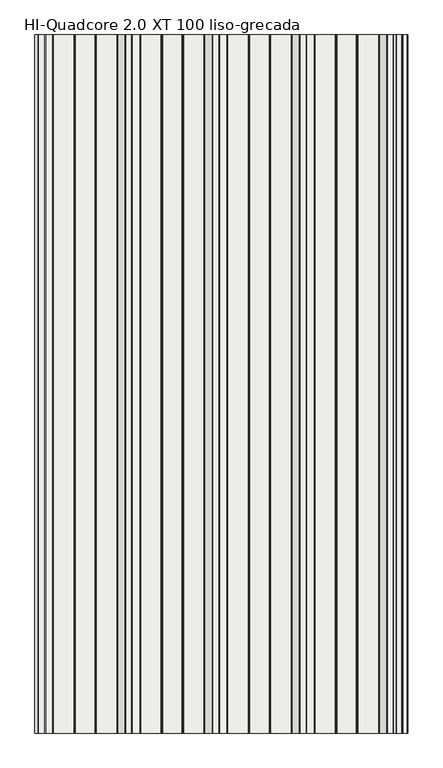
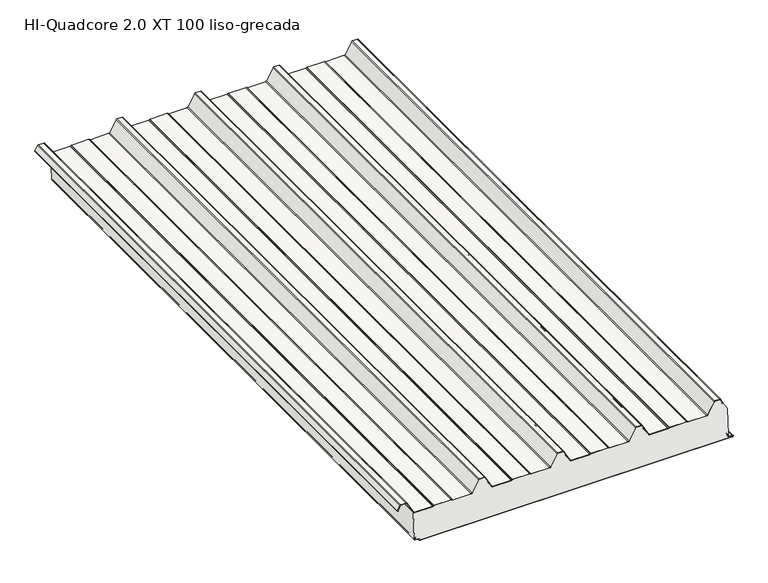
"""IFC4 building model written with IfcOpenShell, lengths in millimetres: slab geometry, HI_QuadCore2.0XT-XT DUAL : HI-Quadcore 2.0 XT 100 liso-grecada."""

from ifc_helpers import new_model, si_unit, point, frame, frame_2d, origin, place, context, project, spatial, polyline, circle_curve, trimmed, segment, composite_curve, outline, extrude, source, transform, mapped, element, save
from ifc_brep_helpers import plane_surface, cylinder_surface, revolved_surface, advanced_brep


def hi_quadcore_2_0_xt_100_liso_grecada_3691bdb9(model_context):
    return source(origin(), model_context, "Body", "SolidModel", [
        advanced_brep(
        [(1186.4313891, 0.0, 13.3795578), (1185.8456418, 0.0, 11.9654043), (1185.8456037, 0.0, 8.2995811), (1187.6996787, 0.0, 6.328543), (1198.1077232, 0.0, 5.5663871), (1199.9032632, 0.0, 3.5769209), (1199.9033076, 0.0, 1.9756011), (1201.903363, 0.0, -0.0243435), (2197.9162803, 0.0, 0.003269), (2199.9046779, 0.0, 2.0032908), (2199.904653, 0.0, 2.9012893), (2198.0077486, 0.0, 4.8985749), (2186.1928118, 0.0, 5.7933732), (2184.3438482, 0.0, 7.7876066), (2184.3437386, 0.0, 11.7402379), (2183.757913, 0.0, 13.1544352), (2182.3436602, 0.0, 14.5686095), (2181.7779748, 0.0, 14.0029241), (2183.1922433, 0.0, 12.5887341), (2183.5437386, 0.0, 11.7402157), (2183.5438482, 0.0, 7.7875844), (2186.1323972, 0.0, 4.9956577), (2197.958132, 0.0, 4.1000416), (2199.104653, 0.0, 2.9012672), (2199.1046779, 0.0, 2.0032686), (2197.9136554, 0.0, 0.8032689), (1201.9033408, 0.0, 0.7756565), (1200.7033076, 0.0, 1.9756233), (1200.7032632, 0.0, 3.5769431), (1198.1768616, 0.0, 6.3634663), (1187.7581044, 0.0, 7.1264067), (1186.6457428, 0.0, 8.3231689), (1186.6456418, 0.0, 11.965396), (1186.9970902, 0.0, 12.8138881), (1189.1032183, 0.0, 14.920133), (1188.5375329, 0.0, 15.4858184), (1186.4313891, 2000.0, 13.3795578), (1188.5375329, 2000.0, 15.4858184), (1189.1032183, 2000.0, 14.920133), (1186.9970902, 2000.0, 12.8138881), (1186.6456418, 2000.0, 11.965396), (1186.6456037, 2000.0, 8.2995728), (1187.7581044, 2000.0, 7.1264067), (1198.1768616, 2000.0, 6.3634663), (1200.7032632, 2000.0, 3.5769431), (1200.7033076, 2000.0, 1.9756233), (1201.9033408, 2000.0, 0.7756565), (2197.9136554, 2000.0, 0.8032689), (2199.1046779, 2000.0, 2.0032686), (2199.104653, 2000.0, 2.9012672), (2197.958132, 2000.0, 4.1000416), (2186.1323972, 2000.0, 4.9956577), (2183.5438482, 2000.0, 7.7875844), (2183.5437386, 2000.0, 11.7402157), (2183.1922433, 2000.0, 12.5887341), (2181.7779748, 2000.0, 14.0029241), (2182.3436602, 2000.0, 14.5686095), (2183.757913, 2000.0, 13.1544352), (2184.3437386, 2000.0, 11.7402379), (2184.3438482, 2000.0, 7.7876066), (2186.1928118, 2000.0, 5.7933732), (2198.0077486, 2000.0, 4.8985749), (2199.904653, 2000.0, 2.9012893), (2199.9046779, 2000.0, 2.0032908), (2197.9162803, 2000.0, 0.003269), (1201.903363, 2000.0, -0.0243435), (1199.9033076, 2000.0, 1.9756011), (1199.9032632, 2000.0, 3.5769209), (1198.1077232, 2000.0, 5.5663871), (1187.6996787, 2000.0, 6.328543), (1185.8457428, 2000.0, 8.3231467), (1185.8456418, 2000.0, 11.9654043)],
        [
            (0, 1, circle_curve(frame((1187.8456418, 0.0, 11.9653834), z_axis=(0.0, -1.0, 0.0), x_axis=(1.0, 0.0, 0.0)), 2.0)),
            (1, 2),
            (2, 3, circle_curve(frame((1187.8457428, 0.0, 8.3232022), z_axis=(0.0, -1.0, 0.0), x_axis=(1.0, 0.0, 0.0)), 2.0)),
            (3, 4),
            (4, 5, circle_curve(frame((1197.9032632, 0.0, 3.5768655), z_axis=(0.0, 1.0, 0.0), x_axis=(1.0, 0.0, 0.0)), 2.0)),
            (5, 6),
            (6, 7, circle_curve(frame((1201.9033076, 0.0, 1.9756565), z_axis=(0.0, -1.0, 0.0), x_axis=(1.0, 0.0, 0.0)), 2.0)),
            (7, 8),
            (8, 9, circle_curve(frame((2197.9046779, 0.0, 2.0032353), z_axis=(0.0, -1.0, 0.0), x_axis=(1.0, 0.0, 0.0)), 2.0)),
            (9, 10),
            (10, 11, circle_curve(frame((2197.904653, 0.0, 2.9012339), z_axis=(0.0, -1.0, 0.0), x_axis=(1.0, 0.0, 0.0)), 2.0)),
            (11, 12),
            (12, 13, circle_curve(frame((2186.3438482, 0.0, 7.7876621), z_axis=(0.0, 1.0, 0.0), x_axis=(1.0, 0.0, 0.0)), 2.0)),
            (13, 14),
            (14, 15, circle_curve(frame((2182.3437386, 0.0, 11.7401824), z_axis=(0.0, -1.0, 0.0), x_axis=(1.0, 0.0, 0.0)), 2.0)),
            (15, 16),
            (16, 17),
            (17, 18),
            (18, 19, circle_curve(frame((2182.3437386, 0.0, 11.7401824), z_axis=(0.0, 1.0, 0.0), x_axis=(1.0, 0.0, 0.0)), 1.2)),
            (19, 20),
            (20, 21, circle_curve(frame((2186.3438482, 0.0, 7.7876621), z_axis=(0.0, -1.0, 0.0), x_axis=(1.0, 0.0, 0.0)), 2.8)),
            (21, 22),
            (22, 23, circle_curve(frame((2197.904653, 0.0, 2.9012339), z_axis=(0.0, 1.0, 0.0), x_axis=(1.0, 0.0, 0.0)), 1.2)),
            (23, 24),
            (24, 25, circle_curve(frame((2197.9046779, 0.0, 2.0032353), z_axis=(0.0, 1.0, 0.0), x_axis=(1.0, 0.0, 0.0)), 1.2)),
            (25, 26),
            (26, 27, circle_curve(frame((1201.9033076, 0.0, 1.9756565), z_axis=(0.0, 1.0, 0.0), x_axis=(1.0, 0.0, 0.0)), 1.2)),
            (27, 28),
            (28, 29, circle_curve(frame((1197.9032632, 0.0, 3.5768655), z_axis=(0.0, -1.0, 0.0), x_axis=(1.0, 0.0, 0.0)), 2.8)),
            (29, 30),
            (30, 31, circle_curve(frame((1187.8457428, 0.0, 8.3232022), z_axis=(0.0, 1.0, 0.0), x_axis=(1.0, 0.0, 0.0)), 1.2)),
            (31, 32),
            (32, 33, circle_curve(frame((1187.8456418, 0.0, 11.9653834), z_axis=(0.0, 1.0, 0.0), x_axis=(1.0, 0.0, 0.0)), 1.2)),
            (33, 34),
            (34, 35),
            (35, 0),
            (36, 37),
            (37, 38),
            (38, 39),
            (39, 40, circle_curve(frame((1187.8456418, 2000.0, 11.9653834), z_axis=(0.0, -1.0, 0.0), x_axis=(1.0, 0.0, 0.0)), 1.2)),
            (40, 41),
            (41, 42, circle_curve(frame((1187.8457428, 2000.0, 8.3232022), z_axis=(0.0, -1.0, 0.0), x_axis=(1.0, 0.0, 0.0)), 1.2)),
            (42, 43),
            (43, 44, circle_curve(frame((1197.9032632, 2000.0, 3.5768655), z_axis=(0.0, 1.0, 0.0), x_axis=(1.0, 0.0, 0.0)), 2.8)),
            (44, 45),
            (45, 46, circle_curve(frame((1201.9033076, 2000.0, 1.9756565), z_axis=(0.0, -1.0, 0.0), x_axis=(1.0, 0.0, 0.0)), 1.2)),
            (46, 47),
            (47, 48, circle_curve(frame((2197.9046779, 2000.0, 2.0032353), z_axis=(0.0, -1.0, 0.0), x_axis=(1.0, 0.0, 0.0)), 1.2)),
            (48, 49),
            (49, 50, circle_curve(frame((2197.904653, 2000.0, 2.9012339), z_axis=(0.0, -1.0, 0.0), x_axis=(1.0, 0.0, 0.0)), 1.2)),
            (50, 51),
            (51, 52, circle_curve(frame((2186.3438482, 2000.0, 7.7876621), z_axis=(0.0, 1.0, 0.0), x_axis=(1.0, 0.0, 0.0)), 2.8)),
            (52, 53),
            (53, 54, circle_curve(frame((2182.3437386, 2000.0, 11.7401824), z_axis=(0.0, -1.0, 0.0), x_axis=(1.0, 0.0, 0.0)), 1.2)),
            (54, 55),
            (55, 56),
            (56, 57),
            (57, 58, circle_curve(frame((2182.3437386, 2000.0, 11.7401824), z_axis=(0.0, 1.0, 0.0), x_axis=(1.0, 0.0, 0.0)), 2.0)),
            (58, 59),
            (59, 60, circle_curve(frame((2186.3438482, 2000.0, 7.7876621), z_axis=(0.0, -1.0, 0.0), x_axis=(1.0, 0.0, 0.0)), 2.0)),
            (60, 61),
            (61, 62, circle_curve(frame((2197.904653, 2000.0, 2.9012339), z_axis=(0.0, 1.0, 0.0), x_axis=(1.0, 0.0, 0.0)), 2.0)),
            (62, 63),
            (63, 64, circle_curve(frame((2197.9046779, 2000.0, 2.0032353), z_axis=(0.0, 1.0, 0.0), x_axis=(1.0, 0.0, 0.0)), 2.0)),
            (64, 65),
            (65, 66, circle_curve(frame((1201.9033076, 2000.0, 1.9756565), z_axis=(0.0, 1.0, 0.0), x_axis=(1.0, 0.0, 0.0)), 2.0)),
            (66, 67),
            (67, 68, circle_curve(frame((1197.9032632, 2000.0, 3.5768655), z_axis=(0.0, -1.0, 0.0), x_axis=(1.0, 0.0, 0.0)), 2.0)),
            (68, 69),
            (69, 70, circle_curve(frame((1187.8457428, 2000.0, 8.3232022), z_axis=(0.0, 1.0, 0.0), x_axis=(1.0, 0.0, 0.0)), 2.0)),
            (70, 71),
            (71, 36, circle_curve(frame((1187.8456418, 2000.0, 11.9653834), z_axis=(0.0, 1.0, 0.0), x_axis=(1.0, 0.0, 0.0)), 2.0)),
            (0, 36),
            (71, 1),
            (70, 2),
            (69, 3),
            (68, 4),
            (67, 5),
            (66, 6),
            (65, 7),
            (64, 8),
            (63, 9),
            (62, 10),
            (61, 11),
            (60, 12),
            (59, 13),
            (58, 14),
            (57, 15),
            (56, 16),
            (55, 17),
            (54, 18),
            (53, 19),
            (52, 20),
            (51, 21),
            (50, 22),
            (49, 23),
            (48, 24),
            (47, 25),
            (46, 26),
            (45, 27),
            (44, 28),
            (43, 29),
            (42, 30),
            (41, 31),
            (40, 32),
            (39, 33),
            (38, 34),
            (37, 35),
        ],
        [
            plane_surface(frame((1189.8456418, 0.0, 11.9653834), z_axis=(0.0, -1.0, 0.0), x_axis=(0.0, 0.0, 1.0))),
            plane_surface(frame((1189.8456418, 2000.0, 11.9653834), z_axis=(0.0, 1.0, 0.0), x_axis=(0.0, 0.0, -1.0))),
            cylinder_surface(frame((1187.8456418, 2000.0, 11.9653834), z_axis=(0.0, -1.0, 0.0), x_axis=(1.0, 0.0, 0.0)), 2.0),
            plane_surface(frame((1185.8456418, 0.0, 11.9654043), z_axis=(-0.9999999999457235, 0.0, 1.041887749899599e-05), x_axis=(0.0, 1.0, 0.0))),
            cylinder_surface(frame((1187.8457428, 2000.0, 8.3232022), z_axis=(0.0, -1.0, 0.0), x_axis=(1.0, 0.0, 0.0)), 2.0),
            plane_surface(frame((1187.6996787, 0.0, 6.328543), z_axis=(-0.07303203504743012, 0.0, -0.9973295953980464), x_axis=(0.0, 1.0, 0.0))),
            revolved_surface(polyline([(1199.9032632, 2000.0, 3.5768655), (1199.9032632, 0.0, 3.5768655)]), (1197.9032632, 2000.0, 3.5768655), (0.0, 1.0, 0.0)),
            plane_surface(frame((1199.9032632, 0.0, 3.5769209), z_axis=(-0.9999999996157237, 0.0, -2.7722781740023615e-05), x_axis=(0.0, 1.0, 0.0))),
            cylinder_surface(frame((1201.9033076, 2000.0, 1.9756565), z_axis=(0.0, -1.0, 0.0), x_axis=(1.0, 0.0, 0.0)), 2.0),
            plane_surface(frame((1201.903363, 0.0, -0.0243435), z_axis=(2.772298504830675e-05, 0.0, -0.9999999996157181), x_axis=(0.0, 1.0, 0.0))),
            cylinder_surface(frame((2197.9046779, 2000.0, 2.0032353), z_axis=(0.0, -1.0, 0.0), x_axis=(1.0, 0.0, 0.0)), 2.0),
            plane_surface(frame((2199.9046779, 0.0, 2.0032908), z_axis=(0.9999999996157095, 0.0, 2.7723295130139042e-05), x_axis=(0.0, 1.0, 0.0))),
            cylinder_surface(frame((2197.904653, 2000.0, 2.9012339), z_axis=(0.0, -1.0, 0.0), x_axis=(1.0, 0.0, 0.0)), 2.0),
            plane_surface(frame((2198.0077486, 0.0, 4.8985749), z_axis=(0.07551822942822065, 0.0, 0.9971444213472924), x_axis=(0.0, 1.0, 0.0))),
            revolved_surface(polyline([(2188.3438482, 2000.0, 7.7876621), (2188.3438482, 0.0, 7.7876621)]), (2186.3438482, 2000.0, 7.7876621), (0.0, 1.0, 0.0)),
            plane_surface(frame((2184.3438482, 0.0, 7.7876066), z_axis=(0.9999999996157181, 0.0, 2.7722984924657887e-05), x_axis=(0.0, 1.0, 0.0))),
            cylinder_surface(frame((2182.3437386, 2000.0, 11.7401824), z_axis=(0.0, -1.0, 0.0), x_axis=(1.0, 0.0, 0.0)), 2.0),
            plane_surface(frame((2183.757913, 0.0, 13.1544352), z_axis=(0.7070871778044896, 0.0, 0.7071263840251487), x_axis=(0.0, 1.0, 0.0))),
            plane_surface(frame((2182.3436602, 0.0, 14.5686095), z_axis=(-0.7071067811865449, 0.0, 0.7071067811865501), x_axis=(0.0, 1.0, 0.0))),
            plane_surface(frame((2181.7779748, 0.0, 14.0029241), z_axis=(-0.7070871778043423, 0.0, -0.707126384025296), x_axis=(0.0, 1.0, 0.0))),
            revolved_surface(polyline([(2183.5437386, 2000.0, 11.7401824), (2183.5437386, 0.0, 11.7401824)]), (2182.3437386, 2000.0, 11.7401824), (0.0, 1.0, 0.0)),
            plane_surface(frame((2183.5437386, 0.0, 11.7402157), z_axis=(-0.9999999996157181, 0.0, -2.7722985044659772e-05), x_axis=(0.0, 1.0, 0.0))),
            cylinder_surface(frame((2186.3438482, 2000.0, 7.7876621), z_axis=(0.0, -1.0, 0.0), x_axis=(1.0, 0.0, 0.0)), 2.8),
            plane_surface(frame((2186.1323972, 0.0, 4.9956577), z_axis=(-0.07551822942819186, 0.0, -0.9971444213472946), x_axis=(0.0, 1.0, 0.0))),
            revolved_surface(polyline([(2199.104653, 2000.0, 2.9012339), (2199.104653, 0.0, 2.9012339)]), (2197.904653, 2000.0, 2.9012339), (0.0, 1.0, 0.0)),
            plane_surface(frame((2199.104653, 0.0, 2.9012672), z_axis=(-0.9999999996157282, 0.0, -2.7722622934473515e-05), x_axis=(0.0, 1.0, 0.0))),
            revolved_surface(polyline([(2199.1046779, 2000.0, 2.0032353), (2199.1046779, 0.0, 2.0032353)]), (2197.9046779, 2000.0, 2.0032353), (0.0, 1.0, 0.0)),
            plane_surface(frame((2197.9136554, 0.0, 0.8032689), z_axis=(-2.7722985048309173e-05, 0.0, 0.9999999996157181), x_axis=(0.0, 1.0, 0.0))),
            revolved_surface(polyline([(1203.1033076, 2000.0, 1.9756565), (1203.1033076, 0.0, 1.9756565)]), (1201.9033076, 2000.0, 1.9756565), (0.0, 1.0, 0.0)),
            plane_surface(frame((1200.7033076, 0.0, 1.9756233), z_axis=(0.9999999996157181, 0.0, 2.7722983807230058e-05), x_axis=(0.0, 1.0, 0.0))),
            cylinder_surface(frame((1197.9032632, 2000.0, 3.5768655), z_axis=(0.0, -1.0, 0.0), x_axis=(1.0, 0.0, 0.0)), 2.8),
            plane_surface(frame((1198.1768616, 0.0, 6.3634663), z_axis=(0.0730320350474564, 0.0, 0.9973295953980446), x_axis=(0.0, 1.0, 0.0))),
            revolved_surface(polyline([(1189.0457428, 2000.0, 8.3232022), (1189.0457428, 0.0, 8.3232022)]), (1187.8457428, 2000.0, 8.3232022), (0.0, 1.0, 0.0)),
            plane_surface(frame((1186.6456037, 0.0, 8.2995728), z_axis=(0.9999999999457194, 0.0, -1.0419274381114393e-05), x_axis=(0.0, 1.0, 0.0))),
            revolved_surface(polyline([(1189.0456418, 2000.0, 11.9653834), (1189.0456418, 0.0, 11.9653834)]), (1187.8456418, 2000.0, 11.9653834), (0.0, 1.0, 0.0)),
            plane_surface(frame((1186.9970902, 0.0, 12.8138881), z_axis=(0.7071263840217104, 0.0, -0.7070871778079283), x_axis=(0.0, 1.0, 0.0))),
            plane_surface(frame((1189.1032183, 0.0, 14.920133), z_axis=(0.7071067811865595, 0.0, 0.7071067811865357), x_axis=(0.0, 1.0, 0.0))),
            plane_surface(frame((1188.5375329, 0.0, 15.4858184), z_axis=(-0.7071263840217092, 0.0, 0.7070871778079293), x_axis=(0.0, 1.0, 0.0))),
        ],
        [
            (0, [[1, 2, 3, 4, 5, 6, 7, 8, 9, 10, 11, 12, 13, 14, 15, 16, 17, 18, 19, 20, 21, 22, 23, 24, 25, 26, 27, 28, 29, 30, 31, 32, 33, 34, 35, 36]]),
            (1, [[37, 38, 39, 40, 41, 42, 43, 44, 45, 46, 47, 48, 49, 50, 51, 52, 53, 54, 55, 56, 57, 58, 59, 60, 61, 62, 63, 64, 65, 66, 67, 68, 69, 70, 71, 72]]),
            (2, [[-1, 73, -72, 74]]),
            (3, [[-2, -74, -71, 75]]),
            (4, [[-3, -75, -70, 76]]),
            (5, [[-4, -76, -69, 77]]),
            (6, [[-5, -77, -68, 78]]),
            (7, [[-6, -78, -67, 79]]),
            (8, [[-7, -79, -66, 80]]),
            (9, [[-8, -80, -65, 81]]),
            (10, [[-9, -81, -64, 82]]),
            (11, [[-10, -82, -63, 83]]),
            (12, [[-11, -83, -62, 84]]),
            (13, [[-12, -84, -61, 85]]),
            (14, [[-13, -85, -60, 86]]),
            (15, [[-14, -86, -59, 87]]),
            (16, [[-15, -87, -58, 88]]),
            (17, [[-16, -88, -57, 89]]),
            (18, [[-17, -89, -56, 90]]),
            (19, [[-18, -90, -55, 91]]),
            (20, [[-19, -91, -54, 92]]),
            (21, [[-20, -92, -53, 93]]),
            (22, [[-21, -93, -52, 94]]),
            (23, [[-22, -94, -51, 95]]),
            (24, [[-23, -95, -50, 96]]),
            (25, [[-24, -96, -49, 97]]),
            (26, [[-25, -97, -48, 98]]),
            (27, [[-26, -98, -47, 99]]),
            (28, [[-27, -99, -46, 100]]),
            (29, [[-28, -100, -45, 101]]),
            (30, [[-29, -101, -44, 102]]),
            (31, [[-30, -102, -43, 103]]),
            (32, [[-31, -103, -42, 104]]),
            (33, [[-32, -104, -41, 105]]),
            (34, [[-33, -105, -40, 106]]),
            (35, [[-34, -106, -39, 107]]),
            (36, [[-35, -107, -38, 108]]),
            (37, [[-36, -108, -37, -73]]),
        ],
    ),
        extrude(outline(composite_curve([segment(polyline([(138.1649405, 1138.5141429), (123.6579587, 1130.3539656)]), True, "CONTINUOUS"), segment(trimmed(circle_curve(frame_2d((123.0451321, 1131.443435)), 1.25), [point((123.6579587, 1130.3539656))], [point((122.689225, 1132.6416963))], False, "CARTESIAN"), True, "CONTINUOUS"), segment(polyline([(122.689225, 1132.6416963), (125.7359115, 1133.437141), (125.9380053, 1132.663088), (122.9074492, 1131.8718547)]), True, "CONTINUOUS"), segment(trimmed(circle_curve(frame_2d((123.0451321, 1131.443435)), 0.45), [point((122.9074492, 1131.8718547))], [point((123.2657497, 1131.051226))], True, "CARTESIAN"), True, "CONTINUOUS"), segment(polyline([(123.2657497, 1131.051226), (137.7727315, 1139.2114033)]), True, "CONTINUOUS"), segment(trimmed(circle_curve(frame_2d((136.4, 1141.6518148)), 2.8), [point((137.7727315, 1139.2114033))], [point((139.2, 1141.6518148))], True, "CARTESIAN"), True, "CONTINUOUS"), segment(polyline([(139.2, 1141.6518148), (139.2, 1158.9311117)]), True, "CONTINUOUS"), segment(trimmed(circle_curve(frame_2d((136.4, 1158.9311117)), 2.8), [point((139.2, 1158.9311117))], [point((137.5457267, 1161.4859719))], True, "CARTESIAN"), True, "CONTINUOUS"), segment(polyline([(137.5457267, 1161.4859719), (101.2048889, 1181.3052775)]), True, "CONTINUOUS"), segment(trimmed(circle_curve(frame_2d((103.0, 1184.6545425)), 3.8), [point((101.2048889, 1181.3052775))], [point((99.2, 1184.6545425))], False, "CARTESIAN"), True, "CONTINUOUS"), segment(polyline([(99.2, 1184.6545425), (99.2, 1242.4489557)]), True, "CONTINUOUS"), segment(trimmed(circle_curve(frame_2d((103.0, 1242.4489557)), 3.8), [point((99.2, 1242.4489557))], [point((99.6973596, 1244.328468))], False, "CARTESIAN"), True, "CONTINUOUS"), segment(polyline([(99.6973596, 1244.328468), (100.912055, 1246.4629056)]), True, "CONTINUOUS"), segment(trimmed(circle_curve(frame_2d((99.0, 1247.5510443)), 2.2), [point((100.912055, 1246.4629056))], [point((101.2, 1247.5510443))], True, "CARTESIAN"), True, "CONTINUOUS"), segment(polyline([(101.2, 1247.5510443), (101.2, 1302.4489557)]), True, "CONTINUOUS"), segment(trimmed(circle_curve(frame_2d((99.0, 1302.4489557)), 2.2), [point((101.2, 1302.4489557))], [point((100.912055, 1303.5370944))], True, "CARTESIAN"), True, "CONTINUOUS"), segment(polyline([(100.912055, 1303.5370944), (99.6973596, 1305.671532)]), True, "CONTINUOUS"), segment(trimmed(circle_curve(frame_2d((103.0, 1307.5510443)), 3.8), [point((99.6973596, 1305.671532))], [point((99.2, 1307.5510443))], False, "CARTESIAN"), True, "CONTINUOUS"), segment(polyline([(99.2, 1307.5510443), (99.2, 1365.7454575)]), True, "CONTINUOUS"), segment(trimmed(circle_curve(frame_2d((103.0, 1365.7454575)), 3.8), [point((99.2, 1365.7454575))], [point((101.1370073, 1369.0574446))], False, "CARTESIAN"), True, "CONTINUOUS"), segment(polyline([(101.1370073, 1369.0574446), (138.0785747, 1389.8370763)]), True, "CONTINUOUS"), segment(trimmed(circle_curve(frame_2d((137.0, 1391.7545425)), 2.2), [point((138.0785747, 1389.8370763))], [point((139.2, 1391.7545425))], True, "CARTESIAN"), True, "CONTINUOUS"), segment(polyline([(139.2, 1391.7545425), (139.2, 1408.2454575)]), True, "CONTINUOUS"), segment(trimmed(circle_curve(frame_2d((137.0, 1408.2454575)), 2.2), [point((139.2, 1408.2454575))], [point((138.0785747, 1410.1629237))], True, "CARTESIAN"), True, "CONTINUOUS"), segment(polyline([(138.0785747, 1410.1629237), (101.1370073, 1430.9425554)]), True, "CONTINUOUS"), segment(trimmed(circle_curve(frame_2d((103.0, 1434.2545425)), 3.8), [point((101.1370073, 1430.9425554))], [point((99.2, 1434.2545425))], False, "CARTESIAN"), True, "CONTINUOUS"), segment(polyline([(99.2, 1434.2545425), (99.2, 1492.4489557)]), True, "CONTINUOUS"), segment(trimmed(circle_curve(frame_2d((103.0, 1492.4489557)), 3.8), [point((99.2, 1492.4489557))], [point((99.6973596, 1494.328468))], False, "CARTESIAN"), True, "CONTINUOUS"), segment(polyline([(99.6973596, 1494.328468), (100.912055, 1496.4629056)]), True, "CONTINUOUS"), segment(trimmed(circle_curve(frame_2d((99.0, 1497.5510443)), 2.2), [point((100.912055, 1496.4629056))], [point((101.2, 1497.5510443))], True, "CARTESIAN"), True, "CONTINUOUS"), segment(polyline([(101.2, 1497.5510443), (101.2, 1552.4489557)]), True, "CONTINUOUS"), segment(trimmed(circle_curve(frame_2d((99.0, 1552.4489557)), 2.2), [point((101.2, 1552.4489557))], [point((100.912055, 1553.5370944))], True, "CARTESIAN"), True, "CONTINUOUS"), segment(polyline([(100.912055, 1553.5370944), (99.6973596, 1555.671532)]), True, "CONTINUOUS"), segment(trimmed(circle_curve(frame_2d((103.0, 1557.5510443)), 3.8), [point((99.6973596, 1555.671532))], [point((99.2, 1557.5510443))], False, "CARTESIAN"), True, "CONTINUOUS"), segment(polyline([(99.2, 1557.5510443), (99.2, 1615.7454575)]), True, "CONTINUOUS"), segment(trimmed(circle_curve(frame_2d((103.0, 1615.7454575)), 3.8), [point((99.2, 1615.7454575))], [point((101.1370073, 1619.0574446))], False, "CARTESIAN"), True, "CONTINUOUS"), segment(polyline([(101.1370073, 1619.0574446), (138.0785747, 1639.8370763)]), True, "CONTINUOUS"), segment(trimmed(circle_curve(frame_2d((137.0, 1641.7545425)), 2.2), [point((138.0785747, 1639.8370763))], [point((139.2, 1641.7545425))], True, "CARTESIAN"), True, "CONTINUOUS"), segment(polyline([(139.2, 1641.7545425), (139.2, 1658.2454575)]), True, "CONTINUOUS"), segment(trimmed(circle_curve(frame_2d((137.0, 1658.2454575)), 2.2), [point((139.2, 1658.2454575))], [point((138.0785747, 1660.1629237))], True, "CARTESIAN"), True, "CONTINUOUS"), segment(polyline([(138.0785747, 1660.1629237), (101.1370073, 1680.9425554)]), True, "CONTINUOUS"), segment(trimmed(circle_curve(frame_2d((103.0, 1684.2545425)), 3.8), [point((101.1370073, 1680.9425554))], [point((99.2, 1684.2545425))], False, "CARTESIAN"), True, "CONTINUOUS"), segment(polyline([(99.2, 1684.2545425), (99.2, 1742.4489557)]), True, "CONTINUOUS"), segment(trimmed(circle_curve(frame_2d((103.0, 1742.4489557)), 3.8), [point((99.2, 1742.4489557))], [point((99.6973596, 1744.328468))], False, "CARTESIAN"), True, "CONTINUOUS"), segment(polyline([(99.6973596, 1744.328468), (100.912055, 1746.4629056)]), True, "CONTINUOUS"), segment(trimmed(circle_curve(frame_2d((99.0, 1747.5510443)), 2.2), [point((100.912055, 1746.4629056))], [point((101.2, 1747.5510443))], True, "CARTESIAN"), True, "CONTINUOUS"), segment(polyline([(101.2, 1747.5510443), (101.2, 1802.4489557)]), True, "CONTINUOUS"), segment(trimmed(circle_curve(frame_2d((99.0, 1802.4489557)), 2.2), [point((101.2, 1802.4489557))], [point((100.912055, 1803.5370944))], True, "CARTESIAN"), True, "CONTINUOUS"), segment(polyline([(100.912055, 1803.5370944), (99.6973596, 1805.671532)]), True, "CONTINUOUS"), segment(trimmed(circle_curve(frame_2d((103.0, 1807.5510443)), 3.8), [point((99.6973596, 1805.671532))], [point((99.2, 1807.5510443))], False, "CARTESIAN"), True, "CONTINUOUS"), segment(polyline([(99.2, 1807.5510443), (99.2, 1865.7454575)]), True, "CONTINUOUS"), segment(trimmed(circle_curve(frame_2d((103.0, 1865.7454575)), 3.8), [point((99.2, 1865.7454575))], [point((101.1370073, 1869.0574446))], False, "CARTESIAN"), True, "CONTINUOUS"), segment(polyline([(101.1370073, 1869.0574446), (138.0785747, 1889.8370763)]), True, "CONTINUOUS"), segment(trimmed(circle_curve(frame_2d((137.0, 1891.7545425)), 2.2), [point((138.0785747, 1889.8370763))], [point((139.2, 1891.7545425))], True, "CARTESIAN"), True, "CONTINUOUS"), segment(polyline([(139.2, 1891.7545425), (139.2, 1908.2454575)]), True, "CONTINUOUS"), segment(trimmed(circle_curve(frame_2d((137.0, 1908.2454575)), 2.2), [point((139.2, 1908.2454575))], [point((138.0785747, 1910.1629237))], True, "CARTESIAN"), True, "CONTINUOUS"), segment(polyline([(138.0785747, 1910.1629237), (101.1370073, 1930.9425554)]), True, "CONTINUOUS"), segment(trimmed(circle_curve(frame_2d((103.0, 1934.2545425)), 3.8), [point((101.1370073, 1930.9425554))], [point((99.2, 1934.2545425))], False, "CARTESIAN"), True, "CONTINUOUS"), segment(polyline([(99.2, 1934.2545425), (99.2, 1992.4489557)]), True, "CONTINUOUS"), segment(trimmed(circle_curve(frame_2d((103.0, 1992.4489557)), 3.8), [point((99.2, 1992.4489557))], [point((99.6973596, 1994.328468))], False, "CARTESIAN"), True, "CONTINUOUS"), segment(polyline([(99.6973596, 1994.328468), (100.912055, 1996.4629056)]), True, "CONTINUOUS"), segment(trimmed(circle_curve(frame_2d((99.0, 1997.5510443)), 2.2), [point((100.912055, 1996.4629056))], [point((101.2, 1997.5510443))], True, "CARTESIAN"), True, "CONTINUOUS"), segment(polyline([(101.2, 1997.5510443), (101.2, 2052.4489557)]), True, "CONTINUOUS"), segment(trimmed(circle_curve(frame_2d((99.0, 2052.4489557)), 2.2), [point((101.2, 2052.4489557))], [point((100.912055, 2053.5370944))], True, "CARTESIAN"), True, "CONTINUOUS"), segment(polyline([(100.912055, 2053.5370944), (99.6973596, 2055.671532)]), True, "CONTINUOUS"), segment(trimmed(circle_curve(frame_2d((103.0, 2057.5510443)), 3.8), [point((99.6973596, 2055.671532))], [point((99.2, 2057.5510443))], False, "CARTESIAN"), True, "CONTINUOUS"), segment(polyline([(99.2, 2057.5510443), (99.2, 2116.4208923)]), True, "CONTINUOUS"), segment(trimmed(circle_curve(frame_2d((103.0, 2116.4208923)), 3.8), [point((99.2, 2116.4208923))], [point((101.1583504, 2119.7447946))], False, "CARTESIAN"), True, "CONTINUOUS"), segment(polyline([(101.1583504, 2119.7447946), (138.0662182, 2140.1940602)]), True, "CONTINUOUS"), segment(trimmed(circle_curve(frame_2d((137.0, 2142.1184247)), 2.2), [point((138.0662182, 2140.1940602))], [point((139.2, 2142.1184247))], True, "CARTESIAN"), True, "CONTINUOUS"), segment(polyline([(139.2, 2142.1184247), (139.2, 2157.4945491)]), True, "CONTINUOUS"), segment(trimmed(circle_curve(frame_2d((137.0, 2157.4945491)), 2.2), [point((139.2, 2157.4945491))], [point((138.0785747, 2159.4120152))], True, "CARTESIAN"), True, "CONTINUOUS"), segment(polyline([(138.0785747, 2159.4120152), (127.5275176, 2165.3469849)]), True, "CONTINUOUS"), segment(trimmed(circle_curve(frame_2d((126.9392041, 2164.3010942)), 1.2), [point((127.5275176, 2165.3469849))], [point((126.3392623, 2165.3403583))], True, "CARTESIAN"), True, "CONTINUOUS"), segment(polyline([(126.3392623, 2165.3403583), (124.7281681, 2164.4103128), (124.3282068, 2165.1031555), (125.939301, 2166.033201)]), True, "CONTINUOUS"), segment(trimmed(circle_curve(frame_2d((126.9392041, 2164.3010942)), 2.0), [point((125.939301, 2166.033201))], [point((127.9197266, 2166.0442453))], False, "CARTESIAN"), True, "CONTINUOUS"), segment(polyline([(127.9197266, 2166.0442453), (138.4707837, 2160.1092757)]), True, "CONTINUOUS"), segment(trimmed(circle_curve(frame_2d((137.0, 2157.4945491)), 3.0), [point((138.4707837, 2160.1092757))], [point((140.0, 2157.4945491))], False, "CARTESIAN"), True, "CONTINUOUS"), segment(polyline([(140.0, 2157.4945491), (140.0, 2142.1184247)]), True, "CONTINUOUS"), segment(trimmed(circle_curve(frame_2d((137.0, 2142.1184247)), 3.0), [point((140.0, 2142.1184247))], [point((138.4539339, 2139.4942913))], False, "CARTESIAN"), True, "CONTINUOUS"), segment(polyline([(138.4539339, 2139.4942913), (101.5460661, 2119.0450257)]), True, "CONTINUOUS"), segment(trimmed(circle_curve(frame_2d((103.0, 2116.4208923)), 3.0), [point((101.5460661, 2119.0450257))], [point((100.0, 2116.4208923))], True, "CARTESIAN"), True, "CONTINUOUS"), segment(polyline([(100.0, 2116.4208923), (100.0, 2057.5510443)]), True, "CONTINUOUS"), segment(trimmed(circle_curve(frame_2d((103.0, 2057.5510443)), 3.0), [point((100.0, 2057.5510443))], [point((100.3926523, 2056.0672188))], True, "CARTESIAN"), True, "CONTINUOUS"), segment(polyline([(100.3926523, 2056.0672188), (101.6073477, 2053.9327812)]), True, "CONTINUOUS"), segment(trimmed(circle_curve(frame_2d((99.0, 2052.4489557)), 3.0), [point((101.6073477, 2053.9327812))], [point((102.0, 2052.4489557))], False, "CARTESIAN"), True, "CONTINUOUS"), segment(polyline([(102.0, 2052.4489557), (102.0, 1997.5510443)]), True, "CONTINUOUS"), segment(trimmed(circle_curve(frame_2d((99.0, 1997.5510443)), 3.0), [point((102.0, 1997.5510443))], [point((101.6073477, 1996.0672188))], False, "CARTESIAN"), True, "CONTINUOUS"), segment(polyline([(101.6073477, 1996.0672188), (100.3926523, 1993.9327812)]), True, "CONTINUOUS"), segment(trimmed(circle_curve(frame_2d((103.0, 1992.4489557)), 3.0), [point((100.3926523, 1993.9327812))], [point((100.0, 1992.4489557))], True, "CARTESIAN"), True, "CONTINUOUS"), segment(polyline([(100.0, 1992.4489557), (100.0, 1934.2545425)]), True, "CONTINUOUS"), segment(trimmed(circle_curve(frame_2d((103.0, 1934.2545425)), 3.0), [point((100.0, 1934.2545425))], [point((101.5292163, 1931.6398158))], True, "CARTESIAN"), True, "CONTINUOUS"), segment(polyline([(101.5292163, 1931.6398158), (138.4707837, 1910.8601842)]), True, "CONTINUOUS"), segment(trimmed(circle_curve(frame_2d((137.0, 1908.2454575)), 3.0), [point((138.4707837, 1910.8601842))], [point((140.0, 1908.2454575))], False, "CARTESIAN"), True, "CONTINUOUS"), segment(polyline([(140.0, 1908.2454575), (140.0, 1891.7545425)]), True, "CONTINUOUS"), segment(trimmed(circle_curve(frame_2d((137.0, 1891.7545425)), 3.0), [point((140.0, 1891.7545425))], [point((138.4707837, 1889.1398158))], False, "CARTESIAN"), True, "CONTINUOUS"), segment(polyline([(138.4707837, 1889.1398158), (101.5292163, 1868.3601842)]), True, "CONTINUOUS"), segment(trimmed(circle_curve(frame_2d((103.0, 1865.7454575)), 3.0), [point((101.5292163, 1868.3601842))], [point((100.0, 1865.7454575))], True, "CARTESIAN"), True, "CONTINUOUS"), segment(polyline([(100.0, 1865.7454575), (100.0, 1807.5510443)]), True, "CONTINUOUS"), segment(trimmed(circle_curve(frame_2d((103.0, 1807.5510443)), 3.0), [point((100.0, 1807.5510443))], [point((100.3926523, 1806.0672188))], True, "CARTESIAN"), True, "CONTINUOUS"), segment(polyline([(100.3926523, 1806.0672188), (101.6073477, 1803.9327812)]), True, "CONTINUOUS"), segment(trimmed(circle_curve(frame_2d((99.0, 1802.4489557)), 3.0), [point((101.6073477, 1803.9327812))], [point((102.0, 1802.4489557))], False, "CARTESIAN"), True, "CONTINUOUS"), segment(polyline([(102.0, 1802.4489557), (102.0, 1747.5510443)]), True, "CONTINUOUS"), segment(trimmed(circle_curve(frame_2d((99.0, 1747.5510443)), 3.0), [point((102.0, 1747.5510443))], [point((101.6073477, 1746.0672188))], False, "CARTESIAN"), True, "CONTINUOUS"), segment(polyline([(101.6073477, 1746.0672188), (100.3926523, 1743.9327812)]), True, "CONTINUOUS"), segment(trimmed(circle_curve(frame_2d((103.0, 1742.4489557)), 3.0), [point((100.3926523, 1743.9327812))], [point((100.0, 1742.4489557))], True, "CARTESIAN"), True, "CONTINUOUS"), segment(polyline([(100.0, 1742.4489557), (100.0, 1684.2545425)]), True, "CONTINUOUS"), segment(trimmed(circle_curve(frame_2d((103.0, 1684.2545425)), 3.0), [point((100.0, 1684.2545425))], [point((101.5292163, 1681.6398158))], True, "CARTESIAN"), True, "CONTINUOUS"), segment(polyline([(101.5292163, 1681.6398158), (138.4707837, 1660.8601842)]), True, "CONTINUOUS"), segment(trimmed(circle_curve(frame_2d((137.0, 1658.2454575)), 3.0), [point((138.4707837, 1660.8601842))], [point((140.0, 1658.2454575))], False, "CARTESIAN"), True, "CONTINUOUS"), segment(polyline([(140.0, 1658.2454575), (140.0, 1641.7545425)]), True, "CONTINUOUS"), segment(trimmed(circle_curve(frame_2d((137.0, 1641.7545425)), 3.0), [point((140.0, 1641.7545425))], [point((138.4707837, 1639.1398158))], False, "CARTESIAN"), True, "CONTINUOUS"), segment(polyline([(138.4707837, 1639.1398158), (101.5292163, 1618.3601842)]), True, "CONTINUOUS"), segment(trimmed(circle_curve(frame_2d((103.0, 1615.7454575)), 3.0), [point((101.5292163, 1618.3601842))], [point((100.0, 1615.7454575))], True, "CARTESIAN"), True, "CONTINUOUS"), segment(polyline([(100.0, 1615.7454575), (100.0, 1557.5510443)]), True, "CONTINUOUS"), segment(trimmed(circle_curve(frame_2d((103.0, 1557.5510443)), 3.0), [point((100.0, 1557.5510443))], [point((100.3926523, 1556.0672188))], True, "CARTESIAN"), True, "CONTINUOUS"), segment(polyline([(100.3926523, 1556.0672188), (101.6073477, 1553.9327812)]), True, "CONTINUOUS"), segment(trimmed(circle_curve(frame_2d((99.0, 1552.4489557)), 3.0), [point((101.6073477, 1553.9327812))], [point((102.0, 1552.4489557))], False, "CARTESIAN"), True, "CONTINUOUS"), segment(polyline([(102.0, 1552.4489557), (102.0, 1497.5510443)]), True, "CONTINUOUS"), segment(trimmed(circle_curve(frame_2d((99.0, 1497.5510443)), 3.0), [point((102.0, 1497.5510443))], [point((101.6073477, 1496.0672188))], False, "CARTESIAN"), True, "CONTINUOUS"), segment(polyline([(101.6073477, 1496.0672188), (100.3926523, 1493.9327812)]), True, "CONTINUOUS"), segment(trimmed(circle_curve(frame_2d((103.0, 1492.4489557)), 3.0), [point((100.3926523, 1493.9327812))], [point((100.0, 1492.4489557))], True, "CARTESIAN"), True, "CONTINUOUS"), segment(polyline([(100.0, 1492.4489557), (100.0, 1434.2545425)]), True, "CONTINUOUS"), segment(trimmed(circle_curve(frame_2d((103.0, 1434.2545425)), 3.0), [point((100.0, 1434.2545425))], [point((101.5292163, 1431.6398158))], True, "CARTESIAN"), True, "CONTINUOUS"), segment(polyline([(101.5292163, 1431.6398158), (138.4707837, 1410.8601842)]), True, "CONTINUOUS"), segment(trimmed(circle_curve(frame_2d((137.0, 1408.2454575)), 3.0), [point((138.4707837, 1410.8601842))], [point((140.0, 1408.2454575))], False, "CARTESIAN"), True, "CONTINUOUS"), segment(polyline([(140.0, 1408.2454575), (140.0, 1391.7545425)]), True, "CONTINUOUS"), segment(trimmed(circle_curve(frame_2d((137.0, 1391.7545425)), 3.0), [point((140.0, 1391.7545425))], [point((138.4707837, 1389.1398158))], False, "CARTESIAN"), True, "CONTINUOUS"), segment(polyline([(138.4707837, 1389.1398158), (101.5292163, 1368.3601842)]), True, "CONTINUOUS"), segment(trimmed(circle_curve(frame_2d((103.0, 1365.7454575)), 3.0), [point((101.5292163, 1368.3601842))], [point((100.0, 1365.7454575))], True, "CARTESIAN"), True, "CONTINUOUS"), segment(polyline([(100.0, 1365.7454575), (100.0, 1307.5510443)]), True, "CONTINUOUS"), segment(trimmed(circle_curve(frame_2d((103.0, 1307.5510443)), 3.0), [point((100.0, 1307.5510443))], [point((100.3926523, 1306.0672188))], True, "CARTESIAN"), True, "CONTINUOUS"), segment(polyline([(100.3926523, 1306.0672188), (101.6073477, 1303.9327812)]), True, "CONTINUOUS"), segment(trimmed(circle_curve(frame_2d((99.0, 1302.4489557)), 3.0), [point((101.6073477, 1303.9327812))], [point((102.0, 1302.4489557))], False, "CARTESIAN"), True, "CONTINUOUS"), segment(polyline([(102.0, 1302.4489557), (102.0, 1247.5510443)]), True, "CONTINUOUS"), segment(trimmed(circle_curve(frame_2d((99.0, 1247.5510443)), 3.0), [point((102.0, 1247.5510443))], [point((101.6073477, 1246.0672188))], False, "CARTESIAN"), True, "CONTINUOUS"), segment(polyline([(101.6073477, 1246.0672188), (100.3926523, 1243.9327812)]), True, "CONTINUOUS"), segment(trimmed(circle_curve(frame_2d((103.0, 1242.4489557)), 3.0), [point((100.3926523, 1243.9327812))], [point((100.0, 1242.4489557))], True, "CARTESIAN"), True, "CONTINUOUS"), segment(polyline([(100.0, 1242.4489557), (100.0, 1184.6545425)]), True, "CONTINUOUS"), segment(trimmed(circle_curve(frame_2d((103.0, 1184.6545425)), 3.0), [point((100.0, 1184.6545425))], [point((101.5852209, 1182.0090935))], True, "CARTESIAN"), True, "CONTINUOUS"), segment(polyline([(101.5852209, 1182.0090935), (137.9031732, 1162.2022691)]), True, "CONTINUOUS"), segment(trimmed(circle_curve(frame_2d((136.4, 1158.9311117)), 3.6), [point((137.9031732, 1162.2022691))], [point((140.0, 1158.9311117))], False, "CARTESIAN"), True, "CONTINUOUS"), segment(polyline([(140.0, 1158.9311117), (140.0, 1141.6518148)]), True, "CONTINUOUS"), segment(trimmed(circle_curve(frame_2d((136.4, 1141.6518148)), 3.6), [point((140.0, 1141.6518148))], [point((138.1649405, 1138.5141429))], False, "CARTESIAN"), True, "CONTINUOUS")], self_intersect=False)), frame((0.0, 0.0, 0.0), z_axis=(0.0, 1.0, 0.0), x_axis=(0.0, 0.0, 1.0)), (0.0, 0.0, 1.0), 2000.0),
        extrude(outline(composite_curve([segment(polyline([(101.2667387, 2181.036551), (127.9197266, 2166.0442453)]), True, "CONTINUOUS"), segment(trimmed(circle_curve(frame_2d((126.9392041, 2164.3010942)), 2.0), [point((127.9197266, 2166.0442453))], [point((125.939301, 2166.033201))], True, "CARTESIAN"), True, "CONTINUOUS"), segment(polyline([(125.939301, 2166.033201), (124.3282068, 2165.1031555), (124.7281681, 2164.4103128), (126.3392623, 2165.3403583)]), True, "CONTINUOUS"), segment(trimmed(circle_curve(frame_2d((126.9392041, 2164.3010942)), 1.2), [point((126.3392623, 2165.3403583))], [point((127.5275176, 2165.3469849))], False, "CARTESIAN"), True, "CONTINUOUS"), segment(polyline([(127.5275176, 2165.3469849), (138.0785747, 2159.4120152)]), True, "CONTINUOUS"), segment(trimmed(circle_curve(frame_2d((137.0, 2157.4945491)), 2.2), [point((138.0785747, 2159.4120152))], [point((139.2, 2157.4945491))], False, "CARTESIAN"), True, "CONTINUOUS"), segment(polyline([(139.2, 2157.4945491), (139.2, 2142.1184247)]), True, "CONTINUOUS"), segment(trimmed(circle_curve(frame_2d((137.0, 2142.1184247)), 2.2), [point((139.2, 2142.1184247))], [point((138.0662182, 2140.1940602))], False, "CARTESIAN"), True, "CONTINUOUS"), segment(polyline([(138.0662182, 2140.1940602), (101.1583504, 2119.7447946)]), True, "CONTINUOUS"), segment(trimmed(circle_curve(frame_2d((103.0, 2116.4208923)), 3.8), [point((101.1583504, 2119.7447946))], [point((99.2, 2116.4208923))], True, "CARTESIAN"), True, "CONTINUOUS"), segment(polyline([(99.2, 2116.4208923), (99.2, 2057.5510443)]), True, "CONTINUOUS"), segment(trimmed(circle_curve(frame_2d((103.0, 2057.5510443)), 3.8), [point((99.2, 2057.5510443))], [point((99.6973596, 2055.671532))], True, "CARTESIAN"), True, "CONTINUOUS"), segment(polyline([(99.6973596, 2055.671532), (100.912055, 2053.5370944)]), True, "CONTINUOUS"), segment(trimmed(circle_curve(frame_2d((99.0, 2052.4489557)), 2.2), [point((100.912055, 2053.5370944))], [point((101.2, 2052.4489557))], False, "CARTESIAN"), True, "CONTINUOUS"), segment(polyline([(101.2, 2052.4489557), (101.2, 1997.5510443)]), True, "CONTINUOUS"), segment(trimmed(circle_curve(frame_2d((99.0, 1997.5510443)), 2.2), [point((101.2, 1997.5510443))], [point((100.912055, 1996.4629056))], False, "CARTESIAN"), True, "CONTINUOUS"), segment(polyline([(100.912055, 1996.4629056), (99.6973596, 1994.328468)]), True, "CONTINUOUS"), segment(trimmed(circle_curve(frame_2d((103.0, 1992.4489557)), 3.8), [point((99.6973596, 1994.328468))], [point((99.2, 1992.4489557))], True, "CARTESIAN"), True, "CONTINUOUS"), segment(polyline([(99.2, 1992.4489557), (99.2, 1934.2545425)]), True, "CONTINUOUS"), segment(trimmed(circle_curve(frame_2d((103.0, 1934.2545425)), 3.8), [point((99.2, 1934.2545425))], [point((101.1370073, 1930.9425554))], True, "CARTESIAN"), True, "CONTINUOUS"), segment(polyline([(101.1370073, 1930.9425554), (138.0785747, 1910.1629237)]), True, "CONTINUOUS"), segment(trimmed(circle_curve(frame_2d((137.0, 1908.2454575)), 2.2), [point((138.0785747, 1910.1629237))], [point((139.2, 1908.2454575))], False, "CARTESIAN"), True, "CONTINUOUS"), segment(polyline([(139.2, 1908.2454575), (139.2, 1891.7545425)]), True, "CONTINUOUS"), segment(trimmed(circle_curve(frame_2d((137.0, 1891.7545425)), 2.2), [point((139.2, 1891.7545425))], [point((138.0785747, 1889.8370763))], False, "CARTESIAN"), True, "CONTINUOUS"), segment(polyline([(138.0785747, 1889.8370763), (101.1370073, 1869.0574446)]), True, "CONTINUOUS"), segment(trimmed(circle_curve(frame_2d((103.0, 1865.7454575)), 3.8), [point((101.1370073, 1869.0574446))], [point((99.2, 1865.7454575))], True, "CARTESIAN"), True, "CONTINUOUS"), segment(polyline([(99.2, 1865.7454575), (99.2, 1807.5510443)]), True, "CONTINUOUS"), segment(trimmed(circle_curve(frame_2d((103.0, 1807.5510443)), 3.8), [point((99.2, 1807.5510443))], [point((99.6973596, 1805.671532))], True, "CARTESIAN"), True, "CONTINUOUS"), segment(polyline([(99.6973596, 1805.671532), (100.912055, 1803.5370944)]), True, "CONTINUOUS"), segment(trimmed(circle_curve(frame_2d((99.0, 1802.4489557)), 2.2), [point((100.912055, 1803.5370944))], [point((101.2, 1802.4489557))], False, "CARTESIAN"), True, "CONTINUOUS"), segment(polyline([(101.2, 1802.4489557), (101.2, 1747.5510443)]), True, "CONTINUOUS"), segment(trimmed(circle_curve(frame_2d((99.0, 1747.5510443)), 2.2), [point((101.2, 1747.5510443))], [point((100.912055, 1746.4629056))], False, "CARTESIAN"), True, "CONTINUOUS"), segment(polyline([(100.912055, 1746.4629056), (99.6973596, 1744.328468)]), True, "CONTINUOUS"), segment(trimmed(circle_curve(frame_2d((103.0, 1742.4489557)), 3.8), [point((99.6973596, 1744.328468))], [point((99.2, 1742.4489557))], True, "CARTESIAN"), True, "CONTINUOUS"), segment(polyline([(99.2, 1742.4489557), (99.2, 1684.2545425)]), True, "CONTINUOUS"), segment(trimmed(circle_curve(frame_2d((103.0, 1684.2545425)), 3.8), [point((99.2, 1684.2545425))], [point((101.1370073, 1680.9425554))], True, "CARTESIAN"), True, "CONTINUOUS"), segment(polyline([(101.1370073, 1680.9425554), (138.0785747, 1660.1629237)]), True, "CONTINUOUS"), segment(trimmed(circle_curve(frame_2d((137.0, 1658.2454575)), 2.2), [point((138.0785747, 1660.1629237))], [point((139.2, 1658.2454575))], False, "CARTESIAN"), True, "CONTINUOUS"), segment(polyline([(139.2, 1658.2454575), (139.2, 1641.7545425)]), True, "CONTINUOUS"), segment(trimmed(circle_curve(frame_2d((137.0, 1641.7545425)), 2.2), [point((139.2, 1641.7545425))], [point((138.0785747, 1639.8370763))], False, "CARTESIAN"), True, "CONTINUOUS"), segment(polyline([(138.0785747, 1639.8370763), (101.1370073, 1619.0574446)]), True, "CONTINUOUS"), segment(trimmed(circle_curve(frame_2d((103.0, 1615.7454575)), 3.8), [point((101.1370073, 1619.0574446))], [point((99.2, 1615.7454575))], True, "CARTESIAN"), True, "CONTINUOUS"), segment(polyline([(99.2, 1615.7454575), (99.2, 1557.5510443)]), True, "CONTINUOUS"), segment(trimmed(circle_curve(frame_2d((103.0, 1557.5510443)), 3.8), [point((99.2, 1557.5510443))], [point((99.6973596, 1555.671532))], True, "CARTESIAN"), True, "CONTINUOUS"), segment(polyline([(99.6973596, 1555.671532), (100.912055, 1553.5370944)]), True, "CONTINUOUS"), segment(trimmed(circle_curve(frame_2d((99.0, 1552.4489557)), 2.2), [point((100.912055, 1553.5370944))], [point((101.2, 1552.4489557))], False, "CARTESIAN"), True, "CONTINUOUS"), segment(polyline([(101.2, 1552.4489557), (101.2, 1497.5510443)]), True, "CONTINUOUS"), segment(trimmed(circle_curve(frame_2d((99.0, 1497.5510443)), 2.2), [point((101.2, 1497.5510443))], [point((100.912055, 1496.4629056))], False, "CARTESIAN"), True, "CONTINUOUS"), segment(polyline([(100.912055, 1496.4629056), (99.6973596, 1494.328468)]), True, "CONTINUOUS"), segment(trimmed(circle_curve(frame_2d((103.0, 1492.4489557)), 3.8), [point((99.6973596, 1494.328468))], [point((99.2, 1492.4489557))], True, "CARTESIAN"), True, "CONTINUOUS"), segment(polyline([(99.2, 1492.4489557), (99.2, 1434.2545425)]), True, "CONTINUOUS"), segment(trimmed(circle_curve(frame_2d((103.0, 1434.2545425)), 3.8), [point((99.2, 1434.2545425))], [point((101.1370073, 1430.9425554))], True, "CARTESIAN"), True, "CONTINUOUS"), segment(polyline([(101.1370073, 1430.9425554), (138.0785747, 1410.1629237)]), True, "CONTINUOUS"), segment(trimmed(circle_curve(frame_2d((137.0, 1408.2454575)), 2.2), [point((138.0785747, 1410.1629237))], [point((139.2, 1408.2454575))], False, "CARTESIAN"), True, "CONTINUOUS"), segment(polyline([(139.2, 1408.2454575), (139.2, 1391.7545425)]), True, "CONTINUOUS"), segment(trimmed(circle_curve(frame_2d((137.0, 1391.7545425)), 2.2), [point((139.2, 1391.7545425))], [point((138.0785747, 1389.8370763))], False, "CARTESIAN"), True, "CONTINUOUS"), segment(polyline([(138.0785747, 1389.8370763), (101.1370073, 1369.0574446)]), True, "CONTINUOUS"), segment(trimmed(circle_curve(frame_2d((103.0, 1365.7454575)), 3.8), [point((101.1370073, 1369.0574446))], [point((99.2, 1365.7454575))], True, "CARTESIAN"), True, "CONTINUOUS"), segment(polyline([(99.2, 1365.7454575), (99.2, 1307.5510443)]), True, "CONTINUOUS"), segment(trimmed(circle_curve(frame_2d((103.0, 1307.5510443)), 3.8), [point((99.2, 1307.5510443))], [point((99.6973596, 1305.671532))], True, "CARTESIAN"), True, "CONTINUOUS"), segment(polyline([(99.6973596, 1305.671532), (100.912055, 1303.5370944)]), True, "CONTINUOUS"), segment(trimmed(circle_curve(frame_2d((99.0, 1302.4489557)), 2.2), [point((100.912055, 1303.5370944))], [point((101.2, 1302.4489557))], False, "CARTESIAN"), True, "CONTINUOUS"), segment(polyline([(101.2, 1302.4489557), (101.2, 1247.5510443)]), True, "CONTINUOUS"), segment(trimmed(circle_curve(frame_2d((99.0, 1247.5510443)), 2.2), [point((101.2, 1247.5510443))], [point((100.912055, 1246.4629056))], False, "CARTESIAN"), True, "CONTINUOUS"), segment(polyline([(100.912055, 1246.4629056), (99.6973596, 1244.328468)]), True, "CONTINUOUS"), segment(trimmed(circle_curve(frame_2d((103.0, 1242.4489557)), 3.8), [point((99.6973596, 1244.328468))], [point((99.2, 1242.4489557))], True, "CARTESIAN"), True, "CONTINUOUS"), segment(polyline([(99.2, 1242.4489557), (99.2, 1184.6545425)]), True, "CONTINUOUS"), segment(trimmed(circle_curve(frame_2d((103.0, 1184.6545425)), 3.8), [point((99.2, 1184.6545425))], [point((101.2048889, 1181.3052775))], True, "CARTESIAN"), True, "CONTINUOUS"), segment(polyline([(101.2048889, 1181.3052775), (7.0308356, 1184.4622222), (7.2414508, 1185.8457731), (11.9758655, 1185.8456417)]), True, "CONTINUOUS"), segment(trimmed(circle_curve(frame_2d((11.9759203, 1187.8456416)), 1.9999999), [point((11.9758655, 1185.8456417))], [point((13.3900948, 1186.4313891))], True, "CARTESIAN"), True, "CONTINUOUS"), segment(polyline([(13.3900948, 1186.4313891), (15.4963556, 1188.5375329), (14.9306702, 1189.1032183), (12.8244256, 1186.9970899)]), True, "CONTINUOUS"), segment(trimmed(circle_curve(frame_2d((11.9759203, 1187.8456416)), 1.2000005), [point((12.8244256, 1186.9970899))], [point((11.9773876, 1186.645642))], False, "CARTESIAN"), True, "CONTINUOUS"), segment(polyline([(11.9773876, 1186.645642), (8.3337062, 1186.6457428)]), True, "CONTINUOUS"), segment(trimmed(circle_curve(frame_2d((8.3337394, 1187.8457428)), 1.2), [point((8.3337062, 1186.6457428))], [point((7.1369439, 1187.7581044))], False, "CARTESIAN"), True, "CONTINUOUS"), segment(polyline([(7.1369439, 1187.7581044), (6.3740035, 1198.1768616)]), True, "CONTINUOUS"), segment(trimmed(circle_curve(frame_2d((3.5874027, 1197.9032632)), 2.8), [point((6.3740035, 1198.1768616))], [point((3.5874804, 1200.7032632))], True, "CARTESIAN"), True, "CONTINUOUS"), segment(polyline([(3.5874804, 1200.7032632), (1.9756233, 1200.7033079)]), True, "CONTINUOUS"), segment(trimmed(circle_curve(frame_2d((1.9756562, 1201.9033076)), 1.1999997), [point((1.9756233, 1200.7033079))], [point((0.7756565, 1201.9033408))], False, "CARTESIAN"), True, "CONTINUOUS"), segment(polyline([(0.7756565, 1201.9033408), (0.8032689, 2197.9136557)]), True, "CONTINUOUS"), segment(trimmed(circle_curve(frame_2d((2.0032353, 2197.9046782)), 1.2), [point((0.8032689, 2197.9136557))], [point((2.0032686, 2199.1046782))], False, "CARTESIAN"), True, "CONTINUOUS"), segment(polyline([(2.0032686, 2199.1046782), (2.9118044, 2199.104653)]), True, "CONTINUOUS"), segment(trimmed(circle_curve(frame_2d((2.9117711, 2197.9046533)), 1.1999997), [point((2.9118044, 2199.104653))], [point((4.1105786, 2197.9581323))], False, "CARTESIAN"), True, "CONTINUOUS"), segment(polyline([(4.1105786, 2197.9581323), (5.0061949, 2186.1323972)]), True, "CONTINUOUS"), segment(trimmed(circle_curve(frame_2d((7.7981993, 2186.3438482)), 2.8), [point((5.0061949, 2186.1323972))], [point((7.7981217, 2183.5438482))], True, "CARTESIAN"), True, "CONTINUOUS"), segment(polyline([(7.7981217, 2183.5438482), (11.7460458, 2183.5455151)]), True, "CONTINUOUS"), segment(trimmed(circle_curve(frame_2d((11.7411592, 2182.3429645)), 1.2025605), [point((11.7460458, 2183.5455151))], [point((12.5937174, 2183.1910778))], False, "CARTESIAN"), True, "CONTINUOUS"), segment(polyline([(12.5937174, 2183.1910778), (14.0134457, 2181.7779905), (14.5791311, 2182.3436759), (13.1649724, 2183.757913), (101.2667387, 2181.036551)]), True, "CONTINUOUS")], self_intersect=False)), frame((0.0, 0.0, 0.0), z_axis=(0.0, 1.0, 0.0), x_axis=(0.0, 0.0, 1.0)), (0.0, 0.0, 1.0), 2000.0),
    ])


if __name__ == "__main__":
    model = new_model("IFC4")
    model_context = context("Model", 3, world=origin())
    ifc_project = project(units=[si_unit("LENGTHUNIT", "METRE", prefix="MILLI")], contexts=[model_context])
    site = spatial("IfcSite", under=ifc_project)
    building = spatial("IfcBuilding", under=site)
    placement = place(None, origin())
    hi_quadcore_2_0_xt_100_liso_grecada_shape = hi_quadcore_2_0_xt_100_liso_grecada_3691bdb9(model_context)
    element("IfcSlab", 1, ObjectType="HI_QuadCore2.0XT-XT DUAL : HI-Quadcore 2.0 XT 100 liso-grecada", at=placement, inside=building, context=model_context, shape_type="MappedRepresentation", body=[
        mapped(hi_quadcore_2_0_xt_100_liso_grecada_shape, transform((0.0, 0.0, 0.0), x_axis=(1.0, 0.0, 0.0), y_axis=(0.0, 1.0, 0.0), z_axis=(0.0, 0.0, 1.0))),
    ])
    save(model, "model.ifc")
